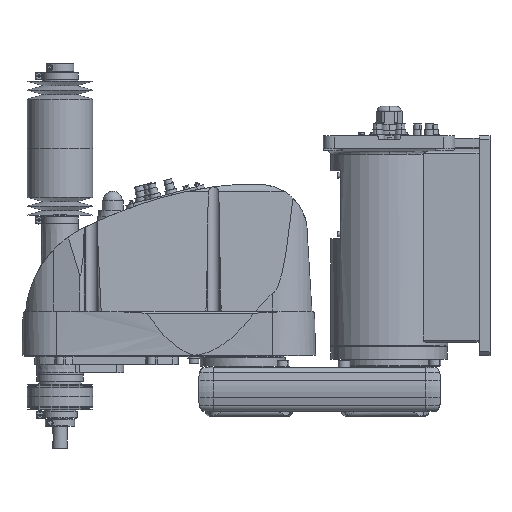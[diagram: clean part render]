
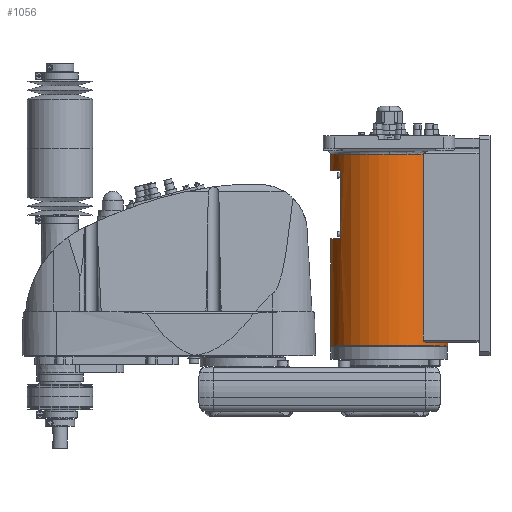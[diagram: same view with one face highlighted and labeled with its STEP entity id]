
A CAD part, top view. The second image highlights one B-rep face of the part: STEP entity #1056.
In plain terms, the highlighted cylindrical face has radius 80 mm (diameter 160 mm), a partial arc.
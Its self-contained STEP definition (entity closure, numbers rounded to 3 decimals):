
#1056 = ADVANCED_FACE( '', ( #3656 ), #3657, .T. );
#3656 = FACE_OUTER_BOUND( '', #7629, .T. );
#3657 = CYLINDRICAL_SURFACE( '', #7630, 80. );
#7629 = EDGE_LOOP( '', ( #15308, #15309, #15310, #15311, #15312, #15313, #15314, #15315, #15316, #15317, #15318, #15319 ) );
#7630 = AXIS2_PLACEMENT_3D( '', #15320, #15321, #15322 );
#15308 = ORIENTED_EDGE( '', *, *, #24718, .T. );
#15309 = ORIENTED_EDGE( '', *, *, #26193, .T. );
#15310 = ORIENTED_EDGE( '', *, *, #26190, .T. );
#15311 = ORIENTED_EDGE( '', *, *, #26187, .T. );
#15312 = ORIENTED_EDGE( '', *, *, #24769, .F. );
#15313 = ORIENTED_EDGE( '', *, *, #24775, .F. );
#15314 = ORIENTED_EDGE( '', *, *, #24724, .T. );
#15315 = ORIENTED_EDGE( '', *, *, #26005, .T. );
#15316 = ORIENTED_EDGE( '', *, *, #26007, .T. );
#15317 = ORIENTED_EDGE( '', *, *, #26008, .T. );
#15318 = ORIENTED_EDGE( '', *, *, #24720, .T. );
#15319 = ORIENTED_EDGE( '', *, *, #26308, .T. );
#15320 = CARTESIAN_POINT( '', ( 0., 160.75, 0. ) );
#15321 = DIRECTION( '', ( 0., -1., 0. ) );
#15322 = DIRECTION( '', ( 1., 0., 0. ) );
#24718 = EDGE_CURVE( '', #29208, #29209, #29210, .T. );
#24720 = EDGE_CURVE( '', #29213, #29211, #29214, .T. );
#24724 = EDGE_CURVE( '', #29221, #29219, #29222, .T. );
#24769 = EDGE_CURVE( '', #29307, #29309, #29310, .T. );
#24775 = EDGE_CURVE( '', #29221, #29307, #29320, .T. );
#26005 = EDGE_CURVE( '', #29219, #31355, #31357, .T. );
#26007 = EDGE_CURVE( '', #31355, #31358, #31360, .T. );
#26008 = EDGE_CURVE( '', #31358, #29213, #31361, .T. );
#26187 = EDGE_CURVE( '', #31646, #29309, #31647, .T. );
#26190 = EDGE_CURVE( '', #31650, #31646, #31651, .T. );
#26193 = EDGE_CURVE( '', #29209, #31650, #31654, .T. );
#26308 = EDGE_CURVE( '', #29211, #29208, #31828, .T. );
#29208 = VERTEX_POINT( '', #36586 );
#29209 = VERTEX_POINT( '', #36587 );
#29210 = LINE( '', #36588, #36589 );
#29211 = VERTEX_POINT( '', #36590 );
#29213 = VERTEX_POINT( '', #36592 );
#29214 = LINE( '', #36593, #36594 );
#29219 = VERTEX_POINT( '', #36600 );
#29221 = VERTEX_POINT( '', #36602 );
#29222 = LINE( '', #36603, #36604 );
#29307 = VERTEX_POINT( '', #36725 );
#29309 = VERTEX_POINT( '', #36727 );
#29310 = CIRCLE( '', #36728, 80. );
#29320 = CIRCLE( '', #36775, 80. );
#31355 = VERTEX_POINT( '', #39634 );
#31357 = CIRCLE( '', #39637, 80. );
#31358 = VERTEX_POINT( '', #39638 );
#31360 = LINE( '', #39641, #39642 );
#31361 = CIRCLE( '', #39643, 80. );
#31646 = VERTEX_POINT( '', #40121 );
#31647 = LINE( '', #40122, #40123 );
#31650 = VERTEX_POINT( '', #40128 );
#31651 = B_SPLINE_CURVE_WITH_KNOTS( '', 3, ( #40129, #40130, #40131, #40132, #40133, #40134, #40135, #40136, #40137, #40138, #40139, #40140, #40141, #40142, #40143, #40144 ), .UNSPECIFIED., .F., .F., ( 4, 2, 2, 2, 2, 2, 2, 4 ), ( -6.06, -5.11, -4.16, -2.26, -1.695, -1.13, -0.565, 0. ), .UNSPECIFIED. );
#31654 = CIRCLE( '', #40149, 80. );
#31828 = CIRCLE( '', #40524, 80. );
#36586 = CARTESIAN_POINT( '', ( 80., 30., 0. ) );
#36587 = CARTESIAN_POINT( '', ( 80., 34.5, 0. ) );
#36588 = CARTESIAN_POINT( '', ( 80., 160.75, 0. ) );
#36589 = VECTOR( '', #50626, 1. );
#36590 = CARTESIAN_POINT( '', ( -80., 30., 0. ) );
#36592 = CARTESIAN_POINT( '', ( -80., 176., 0. ) );
#36593 = CARTESIAN_POINT( '', ( -80., 160.75, 0. ) );
#36594 = VECTOR( '', #50630, 1. );
#36600 = CARTESIAN_POINT( '', ( -80., 269., 0. ) );
#36602 = CARTESIAN_POINT( '', ( -80., 291.5, 0. ) );
#36603 = CARTESIAN_POINT( '', ( -80., 160.75, 0. ) );
#36604 = VECTOR( '', #50638, 1. );
#36725 = CARTESIAN_POINT( '', ( 0., 291.5, 80. ) );
#36727 = CARTESIAN_POINT( '', ( 46.637, 291.5, 65. ) );
#36728 = AXIS2_PLACEMENT_3D( '', #50726, #50727, #50728 );
#36775 = AXIS2_PLACEMENT_3D( '', #50735, #50736, #50737 );
#39634 = CARTESIAN_POINT( '', ( -66., 269., 45.211 ) );
#39637 = AXIS2_PLACEMENT_3D( '', #52867, #52868, #52869 );
#39638 = CARTESIAN_POINT( '', ( -66., 176., 45.211 ) );
#39641 = CARTESIAN_POINT( '', ( -66., 222.5, 45.211 ) );
#39642 = VECTOR( '', #52871, 1. );
#39643 = AXIS2_PLACEMENT_3D( '', #52872, #52873, #52874 );
#40121 = CARTESIAN_POINT( '', ( 46.637, 37.5, 65. ) );
#40122 = CARTESIAN_POINT( '', ( 46.637, 164.5, 65. ) );
#40123 = VECTOR( '', #53115, 1. );
#40128 = CARTESIAN_POINT( '', ( 50.557, 34.5, 62. ) );
#40129 = CARTESIAN_POINT( '', ( 50.557, 34.5, 62. ) );
#40130 = CARTESIAN_POINT( '', ( 50.312, 34.5, 62.2 ) );
#40131 = CARTESIAN_POINT( '', ( 50.054, 34.52, 62.407 ) );
#40132 = CARTESIAN_POINT( '', ( 49.533, 34.607, 62.822 ) );
#40133 = CARTESIAN_POINT( '', ( 49.269, 34.674, 63.029 ) );
#40134 = CARTESIAN_POINT( '', ( 48.491, 34.945, 63.632 ) );
#40135 = CARTESIAN_POINT( '', ( 47.991, 35.221, 64.009 ) );
#40136 = CARTESIAN_POINT( '', ( 47.455, 35.701, 64.405 ) );
#40137 = CARTESIAN_POINT( '', ( 47.333, 35.827, 64.495 ) );
#40138 = CARTESIAN_POINT( '', ( 47.106, 36.105, 64.661 ) );
#40139 = CARTESIAN_POINT( '', ( 47.002, 36.258, 64.736 ) );
#40140 = CARTESIAN_POINT( '', ( 46.828, 36.585, 64.863 ) );
#40141 = CARTESIAN_POINT( '', ( 46.758, 36.761, 64.913 ) );
#40142 = CARTESIAN_POINT( '', ( 46.662, 37.124, 64.982 ) );
#40143 = CARTESIAN_POINT( '', ( 46.637, 37.312, 65. ) );
#40144 = CARTESIAN_POINT( '', ( 46.637, 37.5, 65. ) );
#40149 = AXIS2_PLACEMENT_3D( '', #53120, #53121, #53122 );
#40524 = AXIS2_PLACEMENT_3D( '', #53302, #53303, #53304 );
#50626 = DIRECTION( '', ( 0., 1., 0. ) );
#50630 = DIRECTION( '', ( 0., -1., 0. ) );
#50638 = DIRECTION( '', ( 0., -1., 0. ) );
#50726 = CARTESIAN_POINT( '', ( 0., 291.5, 0. ) );
#50727 = DIRECTION( '', ( 0., 1., 0. ) );
#50728 = DIRECTION( '', ( 1., 0., 0. ) );
#50735 = CARTESIAN_POINT( '', ( 0., 291.5, 0. ) );
#50736 = DIRECTION( '', ( 0., 1., 0. ) );
#50737 = DIRECTION( '', ( 1., 0., 0. ) );
#52867 = CARTESIAN_POINT( '', ( 0., 269., 0. ) );
#52868 = DIRECTION( '', ( 0., 1., 0. ) );
#52869 = DIRECTION( '', ( 1., 0., 0. ) );
#52871 = DIRECTION( '', ( 0., -1., 0. ) );
#52872 = CARTESIAN_POINT( '', ( 0., 176., 0. ) );
#52873 = DIRECTION( '', ( 0., -1., 0. ) );
#52874 = DIRECTION( '', ( 1., 0., 0. ) );
#53115 = DIRECTION( '', ( 0., 1., 0. ) );
#53120 = CARTESIAN_POINT( '', ( 0., 34.5, 0. ) );
#53121 = DIRECTION( '', ( 0., -1., 0. ) );
#53122 = DIRECTION( '', ( 1., 0., 0. ) );
#53302 = CARTESIAN_POINT( '', ( 0., 30., 0. ) );
#53303 = DIRECTION( '', ( 0., 1., 0. ) );
#53304 = DIRECTION( '', ( 1., 0., 0. ) );
